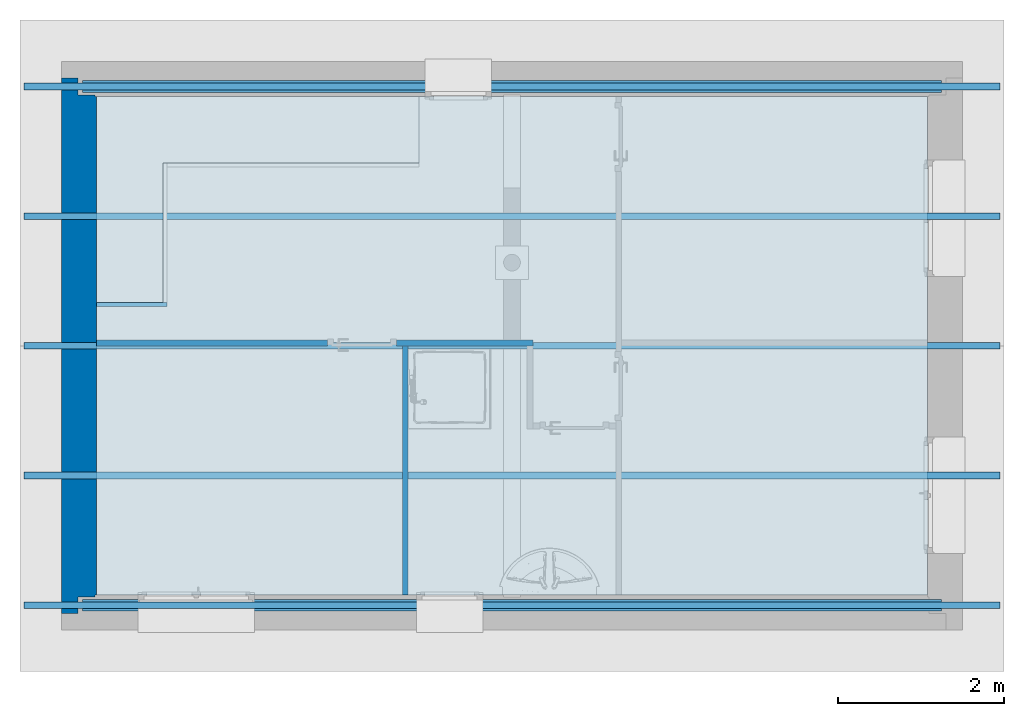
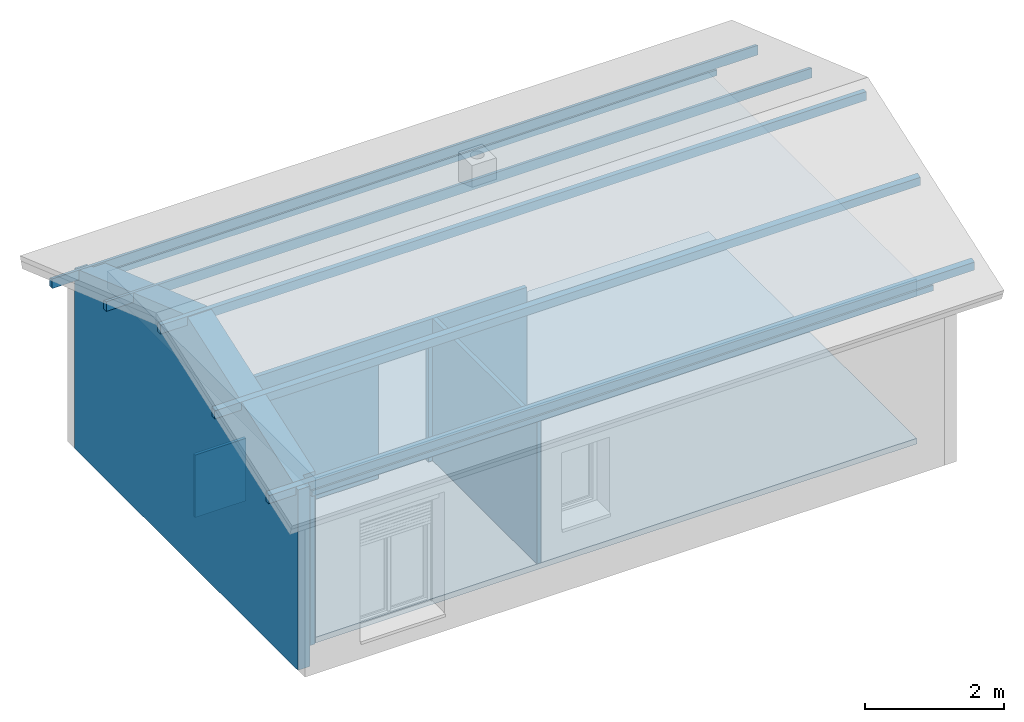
# One storey, part 1 of 7: 7 beams, 4 walls, 2 slabs, 3 openings.
"""IFC4 building model written with IfcOpenShell, lengths in metres."""

from ifc_helpers import new_model, entity, si_unit, converted_unit, frame, frame_2d, origin, origin_with_axes, place, context, subcontext, project, spatial, polyline, rectangle, outline, extrude, clip, halfspace, bounded_halfspace, material, layer, layer_set, layer_usage, element, save


model = new_model("IFC4")

# Units and contexts
model_context = context("Model", 3, precision=1e-05, world=origin())
body_context = subcontext(model_context, "Body", "Model", "MODEL_VIEW")
ifc_project = project(units=[si_unit("LENGTHUNIT", "METRE"), si_unit("AREAUNIT", "SQUARE_METRE"), si_unit("VOLUMEUNIT", "CUBIC_METRE"), si_unit("MASSUNIT", "GRAM", prefix="KILO"), converted_unit("PLANEANGLEUNIT", "DEGREE", entity("IfcPlaneAngleMeasure", 0.0174532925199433), si_unit("PLANEANGLEUNIT", "RADIAN"), dimensions=[0, 0, 0, 0, 0, 0, 0])], contexts=[model_context])

# Building, storey
building_placement = place(None, origin())
building = spatial("IfcBuilding", under=ifc_project, at=building_placement, Name="Projet de Construction", CompositionType="ELEMENT")
storey_placement = place(building_placement, frame((0.0, 0.0, 2.8)))
storey = spatial("IfcBuildingStorey", under=building, at=storey_placement, Name="R+1", CompositionType="ELEMENT", Elevation=2.8)

# Beams
ifc_material_1 = material()
beam_1_placement = place(storey_placement, frame((-7.7359375, 7.79979166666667, 3.05), z_axis=(0.0, 0.0, 1.0), x_axis=(1.0, -7.74697360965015e-17, 0.0)))
element("IfcBeam", 1, at=beam_1_placement, inside=storey, material=ifc_material_1, PredefinedType="NOTDEFINED", context=body_context, shape_type="Clipping", body=[
    clip(extrude(rectangle(XDim=0.08, YDim=0.16900000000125, at=frame_2d((0.04, 0.0845000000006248), x_axis=(1.0, 0.0))), frame((0.0, 0.0, 0.0), z_axis=(1.0, 0.0, 0.0), x_axis=(0.0, 1.0, 0.0)), (0.0, 0.0, 1.0), 11.74), halfspace(frame((5.87, 0.0400000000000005, 0.155000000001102), z_axis=(1.34257346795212e-28, -0.330350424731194, -0.943858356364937), x_axis=(1.0, 0.0, 0.0)), True)),
])
ifc_material_2 = material()
beam_2_placement = place(storey_placement, frame((4.0040625, 1.63979166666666, 3.05), z_axis=(0.0, 0.0, 1.0), x_axis=(-1.0, -7.74697360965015e-17, 0.0)))
element("IfcBeam", 2, at=beam_2_placement, inside=storey, material=ifc_material_2, PredefinedType="NOTDEFINED", context=body_context, shape_type="Clipping", body=[
    clip(extrude(rectangle(XDim=0.08, YDim=0.16900000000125, at=frame_2d((0.04, 0.0845000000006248), x_axis=(1.0, 0.0))), frame((0.0, 0.0, 0.0), z_axis=(1.0, 0.0, 0.0), x_axis=(0.0, 1.0, 0.0)), (0.0, 0.0, 1.0), 11.74), halfspace(frame((5.87, 0.04, 0.155000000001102), z_axis=(-1.34257346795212e-28, -0.330350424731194, -0.943858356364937), x_axis=(1.0, 0.0, 0.0)), True)),
])
ifc_material_3 = material()
beam_3_placement = place(storey_placement, frame((-7.7359375, 4.67979166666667, 4.14200000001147), z_axis=(0.0, 0.0, 1.0), x_axis=(1.0, -7.74697360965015e-17, 0.0)))
element("IfcBeam", 3, at=beam_3_placement, inside=storey, material=ifc_material_3, PredefinedType="NOTDEFINED", context=body_context, shape_type="SweptSolid", body=[
    extrude(rectangle(XDim=0.08, YDim=0.1550000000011, at=frame_2d((0.04, 0.0775000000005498), x_axis=(1.0, 0.0))), frame((0.0, 0.0, 0.0), z_axis=(1.0, 0.0, 0.0), x_axis=(0.0, 1.0, 0.0)), (0.0, 0.0, 1.0), 11.74),
])
ifc_material_4 = material()
beam_4_placement = place(storey_placement, frame((-7.7359375, 6.23979166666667, 3.59600000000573), z_axis=(0.0, 0.0, 1.0), x_axis=(1.0, -7.74697360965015e-17, 0.0)))
element("IfcBeam", 4, at=beam_4_placement, inside=storey, material=ifc_material_4, PredefinedType="NOTDEFINED", context=body_context, shape_type="Clipping", body=[
    clip(extrude(rectangle(XDim=0.08, YDim=0.16900000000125, at=frame_2d((0.04, 0.0845000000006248), x_axis=(1.0, 0.0))), frame((0.0, 0.0, 0.0), z_axis=(1.0, 0.0, 0.0), x_axis=(0.0, 1.0, 0.0)), (0.0, 0.0, 1.0), 11.74), halfspace(frame((5.87, 0.0399999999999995, 0.155000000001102), z_axis=(1.34257346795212e-28, -0.330350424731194, -0.943858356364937), x_axis=(1.0, 0.0, 0.0)), True)),
])
ifc_material_5 = material()
beam_5_placement = place(storey_placement, frame((4.0040625, 3.19979166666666, 3.59600000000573), z_axis=(0.0, 0.0, 1.0), x_axis=(-1.0, -7.74697360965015e-17, 0.0)))
element("IfcBeam", 5, at=beam_5_placement, inside=storey, material=ifc_material_5, PredefinedType="NOTDEFINED", context=body_context, shape_type="Clipping", body=[
    clip(extrude(rectangle(XDim=0.08, YDim=0.16900000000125, at=frame_2d((0.04, 0.0845000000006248), x_axis=(1.0, 0.0))), frame((0.0, 0.0, 0.0), z_axis=(1.0, 0.0, 0.0), x_axis=(0.0, 1.0, 0.0)), (0.0, 0.0, 1.0), 11.74), halfspace(frame((5.87, 0.0400000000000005, 0.155000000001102), z_axis=(-1.34257346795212e-28, -0.330350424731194, -0.943858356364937), x_axis=(1.0, 0.0, 0.0)), True)),
])
ifc_material_6 = material()
beam_6_placement = place(storey_placement, frame((-7.0359375, 7.76979166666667, 2.95000000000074), z_axis=(0.0, 0.0, 1.0), x_axis=(1.0, -8.79588686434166e-17, 0.0)))
element("IfcBeam", 6, at=beam_6_placement, inside=storey, material=ifc_material_6, PredefinedType="NOTDEFINED", context=body_context, shape_type="SweptSolid", body=[
    extrude(rectangle(XDim=0.14, YDim=0.0999999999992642, at=frame_2d((0.07, 0.0499999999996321), x_axis=(1.0, 0.0))), frame((0.0, 0.0, 0.0), z_axis=(1.0, 0.0, 0.0), x_axis=(0.0, 1.0, 0.0)), (0.0, 0.0, 1.0), 10.34),
])
ifc_material_7 = material()
beam_7_placement = place(storey_placement, frame((3.3040625, 1.66979166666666, 2.95000000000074), z_axis=(0.0, 0.0, 1.0), x_axis=(-1.0, -8.79588686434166e-17, 0.0)))
element("IfcBeam", 7, at=beam_7_placement, inside=storey, material=ifc_material_7, PredefinedType="NOTDEFINED", context=body_context, shape_type="SweptSolid", body=[
    extrude(rectangle(XDim=0.14, YDim=0.0999999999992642, at=frame_2d((0.07, 0.0499999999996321), x_axis=(1.0, 0.0))), frame((0.0, 0.0, 0.0), z_axis=(1.0, 0.0, 0.0), x_axis=(0.0, 1.0, 0.0)), (0.0, 0.0, 1.0), 10.34),
])

# Slab, openings
ifc_material_8 = material()
slab_1_placement = place(storey_placement, frame((-6.8659375, 1.71979166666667, 0.2)))
slab_1 = element("IfcSlab", 8, at=slab_1_placement, inside=storey, material=ifc_material_8, PredefinedType="FLOOR", context=body_context, shape_type="SweptSolid", body=[
    extrude(rectangle(XDim=6.0, YDim=10.0, at=frame_2d((5.0, -3.0), x_axis=(0.0, -1.0))), frame((0.0, 6.0, 0.0), z_axis=(0.0, 0.0, 1.0), x_axis=(1.0, 0.0, 0.0)), (0.0, 0.0, 1.0), 0.1),
])
opening_1_placement = place(slab_1_placement, frame((9.09494701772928e-16, 3.52, 0.0)))
element("IfcOpeningStandardCase", 9, at=opening_1_placement, cuts=slab_1, Name="Trémie dans dalle", PredefinedType="OPENING", context=body_context, shape_type="SweptSolid", body=[
    extrude(rectangle(XDim=2.48, YDim=0.8, at=frame_2d((0.0, -1.81898940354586e-15), x_axis=(0.0, -1.0))), frame((0.4, 1.24, 0.0), z_axis=(0.0, 0.0, 1.0), x_axis=(1.0, 0.0, 0.0)), (0.0, 0.0, 1.0), 0.1),
])
opening_2_placement = place(slab_1_placement, frame((0.800000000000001, 5.2, 0.0)))
element("IfcOpeningStandardCase", 10, at=opening_2_placement, cuts=slab_1, Name="Trémie dans dalle", PredefinedType="OPENING", context=body_context, shape_type="SweptSolid", body=[
    extrude(rectangle(XDim=3.08, YDim=0.8, at=frame_2d((0.0, -1.81898940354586e-15), x_axis=(-1.0, 0.0))), frame((1.54, 0.400000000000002, 0.0), z_axis=(0.0, 0.0, 1.0), x_axis=(1.0, 0.0, 0.0)), (0.0, 0.0, 1.0), 0.1),
])

# Slab
ifc_material_9 = material()
slab_2_placement = place(storey_placement, frame((-6.8659375, 1.71979166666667, 2.8)))
element("IfcSlab", 11, at=slab_2_placement, inside=storey, material=ifc_material_9, PredefinedType="FLOOR", context=body_context, shape_type="SweptSolid", body=[
    extrude(rectangle(XDim=6.0, YDim=10.0, at=frame_2d((5.0, -3.0), x_axis=(0.0, -1.0))), frame((0.0, 6.0, 0.0), z_axis=(0.0, 0.0, 1.0), x_axis=(1.0, 0.0, 0.0)), (0.0, 0.0, 1.0), 0.3),
])

# Wall
ifc_material_10 = material()
ifc_layer_1 = layer(ifc_material_10, 0.2)
ifc_material_11 = material()
ifc_layer_2 = layer(ifc_material_11, 0.200000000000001)
ifc_material_12 = material()
ifc_layer_3 = layer(ifc_material_12, 0.0199999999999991)
ifc_layer_set_1 = layer_set([ifc_layer_1, ifc_layer_2, ifc_layer_3])
ifc_layer_usage_1 = layer_usage(ifc_layer_set_1, "AXIS2", "POSITIVE", 0.0)
wall_1_placement = place(storey_placement, frame((-7.2859375, 7.93979166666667, 0.0), z_axis=(0.0, 0.0, 1.0), x_axis=(0.0, -1.0, 0.0)))
element("IfcWall", 12, at=wall_1_placement, inside=storey, material=ifc_layer_usage_1, context=body_context, shape_type="Clipping", body=[
    clip(clip(clip(clip(extrude(outline(polyline([(-6.44, 0.0), (0.0, 0.0), (0.0, 0.2), (-0.2, 0.2), (-0.2, 0.4), (-0.22, 0.4), (-0.22, 0.42), (-6.22, 0.42), (-6.22, 0.4), (-6.24, 0.4), (-6.24, 0.2), (-6.44, 0.2), (-6.44, 0.0)])), frame((6.44, 0.0, 0.0), z_axis=(0.0, 0.0, 1.0), x_axis=(1.0, 0.0, 0.0)), (0.0, 0.0, 1.0), 4.29700000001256), bounded_halfspace(frame((3.22, 0.355000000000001, 0.2), z_axis=(0.0, 0.0, 1.0), x_axis=(0.0, -1.0, 0.0)), True, origin_with_axes(), polyline([(0.2, 0.4), (0.2, 0.2), (6.24, 0.2), (6.24, 0.4), (6.22, 0.4), (6.22, 0.42), (0.22, 0.42), (0.22, 0.4), (0.2, 0.4)]))), bounded_halfspace(frame((1.14, 0.200000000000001, 3.56900000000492), z_axis=(0.330350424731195, -1.76089061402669e-16, -0.943858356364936), x_axis=(0.0, -1.0, 0.0)), True, origin_with_axes(), polyline([(-9.09494701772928e-16, 0.2), (-9.09494701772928e-16, 0.0), (3.22, 0.0), (3.22, 0.4), (0.2, 0.4), (0.2, 0.2), (-9.09494701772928e-16, 0.2)]))), bounded_halfspace(frame((3.22, 0.41, 2.8), z_axis=(0.0, 0.0, -1.0), x_axis=(1.0, 0.0, 0.0)), True, origin_with_axes(), polyline([(0.22, 0.4), (6.22, 0.4), (6.22, 0.42), (0.22, 0.42), (0.22, 0.4)]))), bounded_halfspace(frame((5.3, 0.200000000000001, 3.56900000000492), z_axis=(-0.330350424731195, -1.81591844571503e-16, -0.943858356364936), x_axis=(0.0, -1.0, 0.0)), True, origin_with_axes(), polyline([(3.22, 0.4), (3.22, 0.0), (6.44, 0.0), (6.44, 0.2), (6.24, 0.2), (6.24, 0.4), (3.22, 0.4)]))),
])

# Wall, opening
ifc_material_13 = material()
ifc_layer_4 = layer(ifc_material_13, 0.07)
ifc_layer_set_2 = layer_set([ifc_layer_4])
ifc_layer_usage_2 = layer_usage(ifc_layer_set_2, "AXIS2", "POSITIVE", 0.0)
wall_2_placement = place(storey_placement, frame((-1.6159375, 4.78979166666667, 0.3), z_axis=(0.0, 0.0, 1.0), x_axis=(-1.0, 0.0, 0.0)))
wall_2 = element("IfcWall", 13, at=wall_2_placement, inside=storey, material=ifc_layer_usage_2, context=body_context, shape_type="SweptSolid", body=[
    extrude(rectangle(XDim=5.25, YDim=0.07, at=frame_2d((2.625, 0.035), x_axis=(1.0, 0.0))), origin_with_axes(), (0.0, 0.0, 1.0), 2.5),
])
opening_3_placement = place(wall_2_placement, frame((1.64, 0.0, 0.0), z_axis=(0.0, 1.0, 0.0), x_axis=(0.0, 0.0, 1.0)))
element("IfcOpeningStandardCase", 14, at=opening_3_placement, cuts=wall_2, Name="Baie de porte", PredefinedType="OPENING", context=body_context, shape_type="SweptSolid", body=[
    extrude(outline(polyline([(0.0, 0.83), (2.04, 0.83), (2.04, 0.0), (0.0, 0.0), (0.0, 0.83)])), origin_with_axes(), (0.0, 0.0, 1.0), 0.07),
])

# Walls
ifc_material_14 = material()
ifc_layer_5 = layer(ifc_material_14, 0.07)
ifc_layer_set_3 = layer_set([ifc_layer_5])
ifc_layer_usage_3 = layer_usage(ifc_layer_set_3, "AXIS2", "POSITIVE", 0.0)
wall_3_placement = place(storey_placement, frame((-3.1859375, 4.71979166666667, 0.3), z_axis=(0.0, 0.0, 1.0), x_axis=(-1.51582450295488e-16, -1.0, 0.0)))
element("IfcWall", 15, at=wall_3_placement, inside=storey, material=ifc_layer_usage_3, context=body_context, shape_type="SweptSolid", body=[
    extrude(rectangle(XDim=3.0, YDim=0.07, at=frame_2d((1.5, 0.035), x_axis=(1.0, 0.0))), origin_with_axes(), (0.0, 0.0, 1.0), 2.5),
])
ifc_material_15 = material(Name="Bois & Verre")
ifc_layer_6 = layer(ifc_material_15, 0.05)
ifc_layer_set_4 = layer_set([ifc_layer_6])
ifc_layer_usage_4 = layer_usage(ifc_layer_set_4, "AXIS2", "POSITIVE", 0.0)
wall_4_placement = place(storey_placement, frame((-6.0159375, 5.23979166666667, 0.3), z_axis=(0.0, 0.0, 1.0), x_axis=(-1.0, 0.0, 0.0)))
element("IfcWall", 16, at=wall_4_placement, inside=storey, material=ifc_layer_usage_4, context=body_context, shape_type="SweptSolid", body=[
    extrude(rectangle(XDim=0.85, YDim=0.05, at=frame_2d((0.425, 0.025), x_axis=(1.0, 0.0))), origin_with_axes(), (0.0, 0.0, 1.0), 1.1),
])

save(model, "model.ifc")
